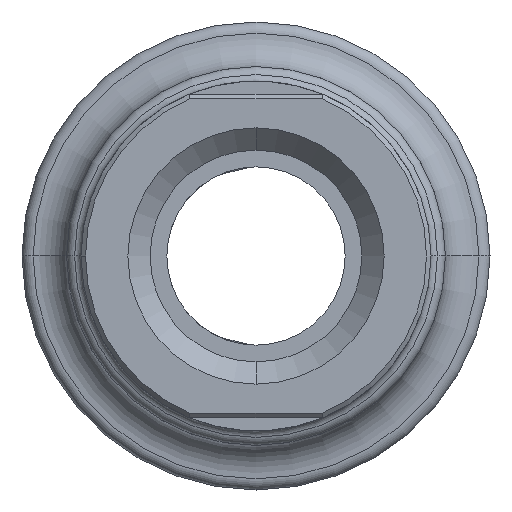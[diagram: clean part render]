
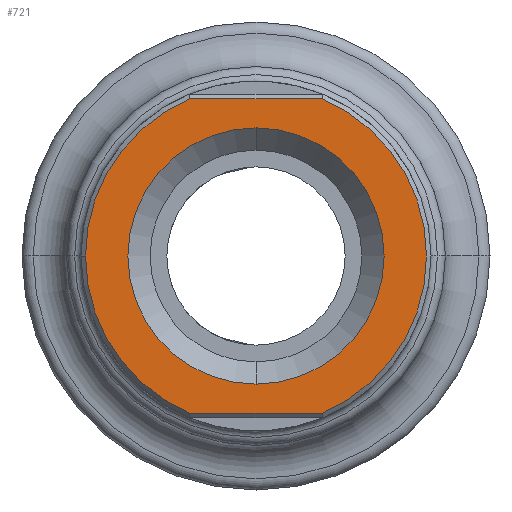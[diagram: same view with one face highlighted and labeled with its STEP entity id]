
A CAD part, left-side view. The second image highlights one B-rep face of the part: STEP entity #721.
In plain terms, the highlighted planar face has unit normal (-1, 0, 0).
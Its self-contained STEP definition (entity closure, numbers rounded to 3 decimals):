
#8 = CARTESIAN_POINT ( 'NONE',  ( -132.35, 0., 0. ) ) ;
#86 = CIRCLE ( 'NONE', #883, 5.75 ) ;
#90 = AXIS2_PLACEMENT_3D ( 'NONE', #8, #223, #837 ) ;
#105 = CIRCLE ( 'NONE', #1831, 7.65 ) ;
#111 = DIRECTION ( 'NONE',  ( 0., 1., 0. ) ) ;
#134 = EDGE_CURVE ( 'NONE', #1807, #2309, #86, .T. ) ;
#140 = VERTEX_POINT ( 'NONE', #1724 ) ;
#147 = CARTESIAN_POINT ( 'NONE',  ( -132.35, -2.97, 7.05 ) ) ;
#188 = EDGE_LOOP ( 'NONE', ( #1800, #1642 ) ) ;
#223 = DIRECTION ( 'NONE',  ( 1., 0., 0. ) ) ;
#235 = LINE ( 'NONE', #263, #2460 ) ;
#263 = CARTESIAN_POINT ( 'NONE',  ( -132.35, -3.01, -7.05 ) ) ;
#302 = DIRECTION ( 'NONE',  ( -1., 0., 0. ) ) ;
#310 = CARTESIAN_POINT ( 'NONE',  ( -132.35, 0., 0. ) ) ;
#314 = CARTESIAN_POINT ( 'NONE',  ( -132.35, 0., 5.75 ) ) ;
#385 = EDGE_LOOP ( 'NONE', ( #2072, #1092, #2123, #2336, #1900 ) ) ;
#477 = CARTESIAN_POINT ( 'NONE',  ( -132.35, 3.01, 7.05 ) ) ;
#483 = LINE ( 'NONE', #477, #2580 ) ;
#490 = DIRECTION ( 'NONE',  ( 0., -1., 0. ) ) ;
#524 = DIRECTION ( 'NONE',  ( -1., 0., 0. ) ) ;
#546 = DIRECTION ( 'NONE',  ( -1., 0., 0. ) ) ;
#700 = CARTESIAN_POINT ( 'NONE',  ( -132.35, 0., -5.75 ) ) ;
#712 = AXIS2_PLACEMENT_3D ( 'NONE', #1389, #1010, #2401 ) ;
#721 = ADVANCED_FACE ( 'NONE', ( #1123, #1517 ), #1151, .T. ) ;
#743 = CARTESIAN_POINT ( 'NONE',  ( -132.35, -2.97, -7.05 ) ) ;
#837 = DIRECTION ( 'NONE',  ( 0., -1., 0. ) ) ;
#847 = EDGE_CURVE ( 'NONE', #1791, #1524, #235, .T. ) ;
#856 = CIRCLE ( 'NONE', #712, 7.65 ) ;
#879 = DIRECTION ( 'NONE',  ( 0., -1., 0. ) ) ;
#883 = AXIS2_PLACEMENT_3D ( 'NONE', #310, #2315, #2101 ) ;
#1010 = DIRECTION ( 'NONE',  ( -1., 0., 0. ) ) ;
#1085 = CARTESIAN_POINT ( 'NONE',  ( -132.35, 2.97, -7.05 ) ) ;
#1092 = ORIENTED_EDGE ( 'NONE', *, *, #1787, .T. ) ;
#1123 = FACE_BOUND ( 'NONE', #188, .T. ) ;
#1136 = VERTEX_POINT ( 'NONE', #147 ) ;
#1151 = PLANE ( 'NONE',  #1225 ) ;
#1225 = AXIS2_PLACEMENT_3D ( 'NONE', #1741, #546, #2144 ) ;
#1389 = CARTESIAN_POINT ( 'NONE',  ( -132.35, 0., 0. ) ) ;
#1517 = FACE_OUTER_BOUND ( 'NONE', #385, .T. ) ;
#1524 = VERTEX_POINT ( 'NONE', #743 ) ;
#1586 = CARTESIAN_POINT ( 'NONE',  ( -132.35, 2.97, 7.05 ) ) ;
#1604 = EDGE_CURVE ( 'NONE', #1524, #1136, #856, .T. ) ;
#1642 = ORIENTED_EDGE ( 'NONE', *, *, #1676, .T. ) ;
#1664 = DIRECTION ( 'NONE',  ( 0., -1., 0. ) ) ;
#1676 = EDGE_CURVE ( 'NONE', #2309, #1807, #2164, .T. ) ;
#1692 = CARTESIAN_POINT ( 'NONE',  ( -132.35, 0., 0. ) ) ;
#1706 = CARTESIAN_POINT ( 'NONE',  ( -132.35, 0., 0. ) ) ;
#1724 = CARTESIAN_POINT ( 'NONE',  ( -132.35, 7.65, 0. ) ) ;
#1741 = CARTESIAN_POINT ( 'NONE',  ( -132.35, 4., 0. ) ) ;
#1787 = EDGE_CURVE ( 'NONE', #1136, #2038, #483, .T. ) ;
#1791 = VERTEX_POINT ( 'NONE', #1085 ) ;
#1800 = ORIENTED_EDGE ( 'NONE', *, *, #134, .T. ) ;
#1801 = EDGE_CURVE ( 'NONE', #2038, #140, #105, .T. ) ;
#1807 = VERTEX_POINT ( 'NONE', #314 ) ;
#1831 = AXIS2_PLACEMENT_3D ( 'NONE', #1692, #302, #490 ) ;
#1900 = ORIENTED_EDGE ( 'NONE', *, *, #847, .T. ) ;
#2038 = VERTEX_POINT ( 'NONE', #1586 ) ;
#2072 = ORIENTED_EDGE ( 'NONE', *, *, #1604, .T. ) ;
#2101 = DIRECTION ( 'NONE',  ( 0., -1., 0. ) ) ;
#2123 = ORIENTED_EDGE ( 'NONE', *, *, #1801, .T. ) ;
#2144 = DIRECTION ( 'NONE',  ( 0., -1., 0. ) ) ;
#2164 = CIRCLE ( 'NONE', #90, 5.75 ) ;
#2260 = CIRCLE ( 'NONE', #2352, 7.65 ) ;
#2280 = EDGE_CURVE ( 'NONE', #140, #1791, #2260, .T. ) ;
#2309 = VERTEX_POINT ( 'NONE', #700 ) ;
#2315 = DIRECTION ( 'NONE',  ( 1., 0., 0. ) ) ;
#2336 = ORIENTED_EDGE ( 'NONE', *, *, #2280, .T. ) ;
#2352 = AXIS2_PLACEMENT_3D ( 'NONE', #1706, #524, #879 ) ;
#2401 = DIRECTION ( 'NONE',  ( 0., -1., 0. ) ) ;
#2460 = VECTOR ( 'NONE', #1664, 1000. ) ;
#2580 = VECTOR ( 'NONE', #111, 1000. ) ;
